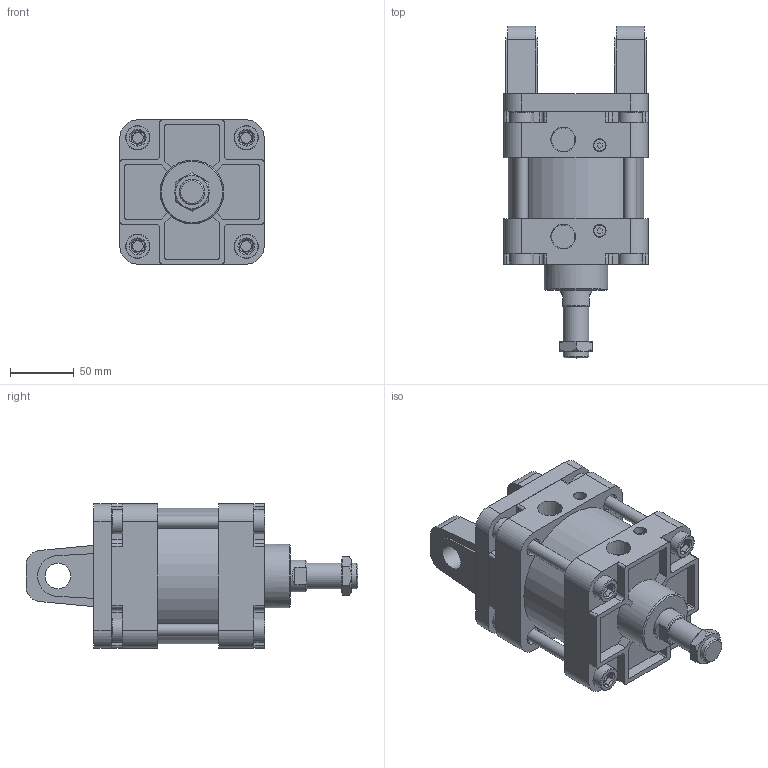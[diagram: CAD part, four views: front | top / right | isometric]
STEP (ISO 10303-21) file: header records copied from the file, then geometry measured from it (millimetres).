
FILE_DESCRIPTION(/* description */ ('Unknown'),/* implementation_level */ '2;1');
FILE_NAME(/* name */ 'WA100-0-CB',/* time_stamp */ '2026-07-17T16:57:26+08:00',/* author */ ('Unknown'),/* organization */ ('Unknown'),/* preprocessor_version */ 'ST-DEVELOPER v16.7',/* originating_system */ 'DEX',/* authorisation */ $);
FILE_SCHEMA (('CONFIG_CONTROL_DESIGN'));
Length unit declared in the file: millimetre
Products named in the file (8): WA100-0-CB; WA100_ｫeﾀ㊦; WA100_後; WA100_鋁0; WA100_心軸活onRefs; M20-1.5P-8_螺; WA100_T帽牙; WA100_CB
Assembly tree (10 placements, depth 2):
  WA100-0-CB
    WA100_ｫeﾀ㊦
    WA100_後
    WA100_鋁0
    WA100_心軸活onRefs
    M20-1.5P-8_螺
    WA100_T帽牙  x4
    WA100_CB
Bounding box: 113 x 260 x 113 mm (x, y, z)
Volume: 1510647.7 mm3; surface area: 257351 mm2
Topology: 10 solids, 10 shells, 407 faces, 999 edges, 667 vertices
Faces by surface type: plane 251, cylinder 125, cone 23, torus 8
Full cylindrical faces by diameter (mm): 8.5 x8, 9 x2, 10 x6, 11 x4, 14 x8, 14.2 x8, 17 x4, 18.376 x1, 19 x8, 20 x3, 25 x2, 26 x1, 50 x1, 99.5 x1, 100 x3, 106 x1
Entity records: 10892 total; most frequent: CARTESIAN_POINT 1655, DIRECTION 1568, ORIENTED_EDGE 1428, EDGE_CURVE 714, AXIS2_PLACEMENT_3D 563, VERTEX_POINT 502, LINE 442, VECTOR 442
